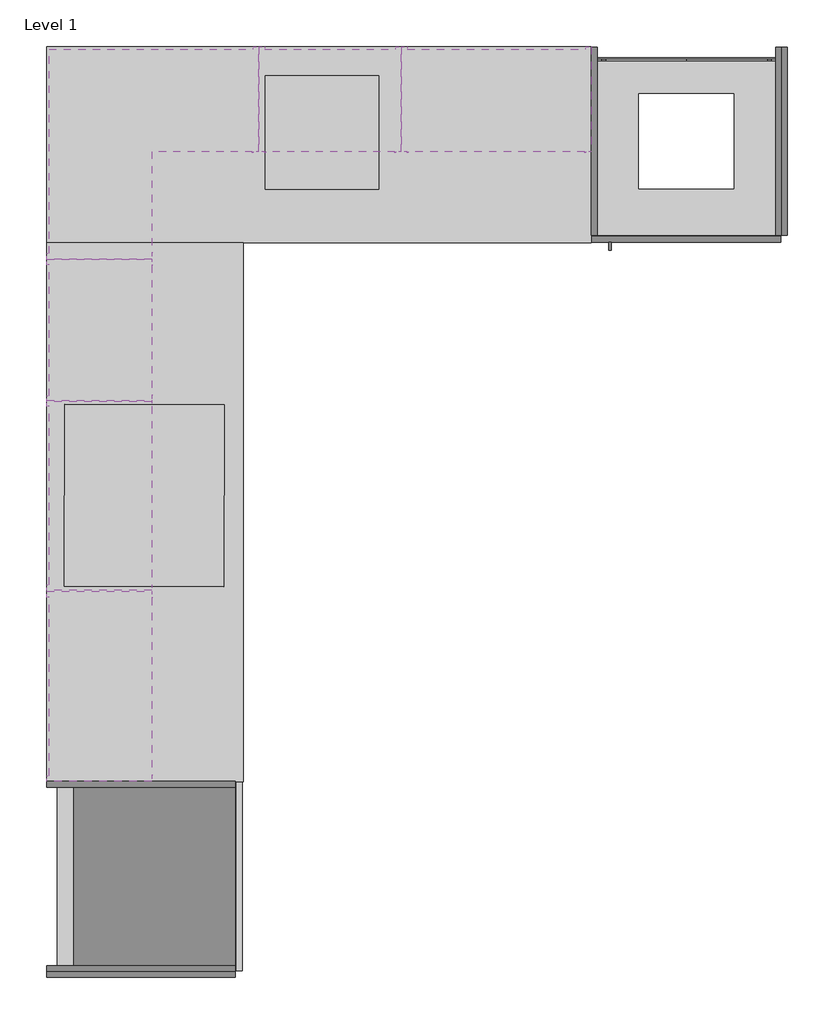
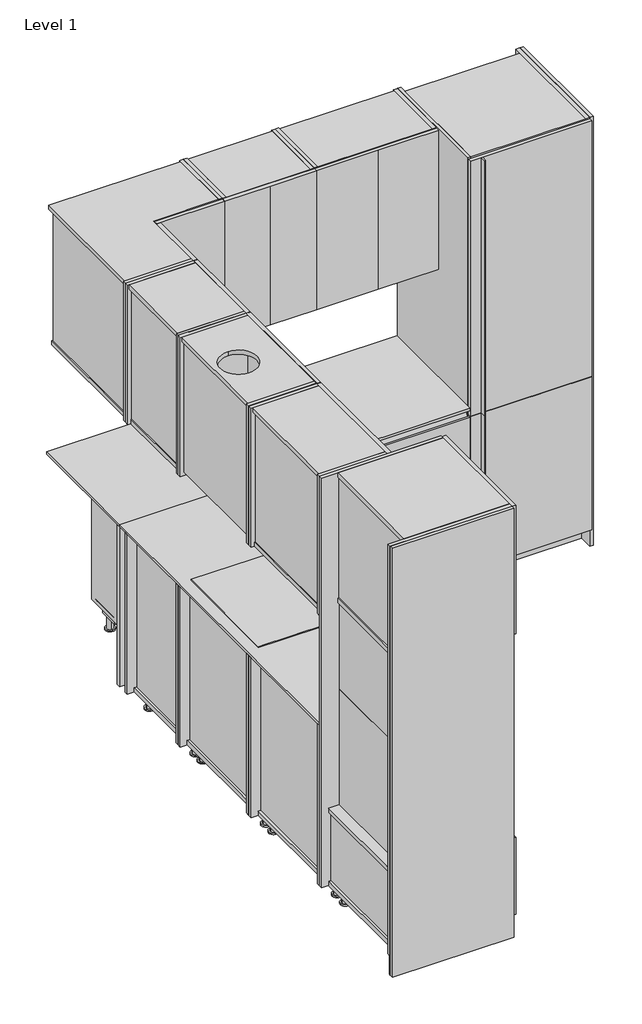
# One storey, incomplete: 18 furniture elements.
"""IFC4 building model written with IfcOpenShell, lengths in millimetres."""

from ifc_helpers import new_model, si_unit, frame, origin, place, context, project, spatial, polyline, outline, extrude, transform, mapped, element, save
from components import furniture_64351078, furniture_f227b24d, furniture_563479a7, furniture_3aacc366, base_corner_unit_1120_x_595_x_828_48937a91, base_unit_450_x_595_x_828_44056503, base_unit_600_x_595_x_828_324a6826, base_unit_with_drawers_600_x_595_x_828_efac2a1d, cooker_hood_600_x_331_x_722_96242f5e, fridge_600_x_595_x_2123_014d46ee, oven_and_microwave_600_x_595_x_2123_aba355bb, wall_corner_unit_670_x_331_x_722_3f49a759, wall_unit_1_leaf_450_x_331_x_722_4ee17443, wall_unit_1_leaf_450_x_331_x_722_3be3e329, wall_unit_1_leaf_600_x_331_x_722_c22d5c6f, wall_unit_1_leaf_600_x_331_x_722_7ddda7a9

model = new_model("IFC4")

# Units and contexts
model_context = context("Model", 3, world=origin())
ifc_project = project(units=[si_unit("LENGTHUNIT", "METRE", prefix="MILLI")], contexts=[model_context])

# Site, building, storey
site = spatial("IfcSite", under=ifc_project)
building = spatial("IfcBuilding", under=site)
storey = spatial("IfcBuildingStorey", under=building, Name="Level 1", Elevation=0.0)

# Furniture
placement = place(None, origin())
element("IfcFurniture", 1, ObjectType="Furniture_Other-Furniture_Molteni&C_Prime_Cooker-Top : Cooker Top - th 12 mm - Ceramic - Inalco Silk Gris Natural", at=placement, inside=storey, context=model_context, shape_type="SweptSolid", body=[
    extrude(outline(polyline([(-2408.3965862, 5876.5927838), (-2408.3965862, 6496.5927838), (-688.3965862, 6496.5927838), (-688.3965862, 5876.5927838), (-2408.3965862, 5876.5927838)]), holes=[polyline([(-1718.2811554, 6046.3592363), (-1360.1411554, 6046.3592363), (-1360.1411554, 6404.4992363), (-1718.2811554, 6404.4992363), (-1718.2811554, 6046.3592363)])]), frame((0.0, 0.0, 928.0), z_axis=(0.0, 0.0, 1.0), x_axis=(1.0, 0.0, 0.0)), (0.0, 0.0, 1.0), 12.0),
])
furniture_shape = furniture_64351078(model_context)
element("IfcFurniture", 2, ObjectType="Furniture_Other-Furniture_Molteni&C_Prime_Cooker-Top : Cooker Top - th 12 mm - Ceramic - Inalco Silk Gris Natural", at=placement, inside=storey, context=model_context, shape_type="MappedRepresentation", body=[
    mapped(furniture_shape, transform((-2098.3965862, 5025.0927838, 928.0), x_axis=(0.0, 1.0, 0.0), y_axis=(-1.0, 0.0, 0.0), z_axis=(0.0, 0.0, 1.0))),
])
furniture_2_shape = furniture_f227b24d(model_context)
element("IfcFurniture", 3, ObjectType="Furniture_Other-Furniture_Molteni&C_Prime_Panels : Furniture_Other-Furniture_Molteni&C_Prime_Panels", at=placement, inside=storey, context=model_context, shape_type="MappedRepresentation", body=[
    mapped(furniture_2_shape, transform((-2110.8965862, 3575.0927838, 1111.5), x_axis=(-1.0, 0.0, 0.0), y_axis=(0.0, 0.0, -1.0), z_axis=(0.0, -1.0, 0.0))),
])
element("IfcFurniture", 4, ObjectType="Furniture_Other-Furniture_Molteni&C_Prime_Panels : Furniture_Other-Furniture_Molteni&C_Prime_Panels", at=placement, inside=storey, context=model_context, shape_type="MappedRepresentation", body=[
    mapped(furniture_2_shape, transform((-88.3965862, 6197.5927838, 1111.5), x_axis=(0.0, -1.0, 0.0), y_axis=(0.0, 0.0, -1.0), z_axis=(1.0, 0.0, 0.0))),
])
furniture_3_shape = furniture_563479a7(model_context)
element("IfcFurniture", 5, ObjectType="Furniture_Other-Furniture_Molteni&C_Prime_Washdishes-1-leaf : Washdishes 1 leaf - 600 x 828", at=placement, inside=storey, context=model_context, shape_type="MappedRepresentation", body=[
    mapped(furniture_3_shape, transform((-988.3965862, 6196.0927838, 0.0), x_axis=(1.0, 0.0, 0.0), y_axis=(0.0, 1.0, 0.0), z_axis=(0.0, 0.0, 1.0))),
])
furniture_4_shape = furniture_3aacc366(model_context)
element("IfcFurniture", 6, ObjectType="Cookertop : Cookertop", at=placement, inside=storey, context=model_context, shape_type="MappedRepresentation", body=[
    mapped(furniture_4_shape, transform((-2100.3965862, 5078.5927838, 940.0), x_axis=(0.0034211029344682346, 0.999994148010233, 0.0), y_axis=(-0.999994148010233, 0.0034211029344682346, 0.0), z_axis=(0.0, 0.0, 1.0))),
])
base_corner_unit_1120_x_595_x_828_shape = base_corner_unit_1120_x_595_x_828_48937a91(model_context)
element("IfcFurniture", 7, ObjectType="Furniture_Other-Furniture_Molteni&C_Prime_Base-Corner : Base Corner Unit - 1120 x 595 x 828", at=placement, inside=storey, context=model_context, shape_type="MappedRepresentation", body=[
    mapped(base_corner_unit_1120_x_595_x_828_shape, transform((-1737.8965862, 6196.0927838, 0.0), x_axis=(1.0, 0.0, 0.0), y_axis=(0.0, 1.0, 0.0), z_axis=(0.0, 0.0, 1.0))),
])
base_unit_450_x_595_x_828_shape = base_unit_450_x_595_x_828_44056503(model_context)
element("IfcFurniture", 8, ObjectType="Furniture_Other-Furniture_Molteni&C_Prime_Base : Base Unit - 450 x 595 x 828", at=placement, inside=storey, context=model_context, shape_type="MappedRepresentation", body=[
    mapped(base_unit_450_x_595_x_828_shape, transform((-2110.8965862, 5603.5927838, 0.0), x_axis=(0.0, 1.0, 0.0), y_axis=(-1.0, 0.0, 0.0), z_axis=(0.0, 0.0, 1.0))),
])
base_unit_600_x_595_x_828_shape = base_unit_600_x_595_x_828_324a6826(model_context)
element("IfcFurniture", 9, ObjectType="Furniture_Other-Furniture_Molteni&C_Prime_Base : Base Unit - 600 x 595 x 828", at=placement, inside=storey, context=model_context, shape_type="MappedRepresentation", body=[
    mapped(base_unit_600_x_595_x_828_shape, transform((-2110.8965862, 4475.0927838, 0.0), x_axis=(0.0, -1.0, 0.0), y_axis=(1.0, 0.0, 0.0), z_axis=(0.0, 0.0, 1.0))),
])
base_unit_with_drawers_600_x_595_x_828_shape = base_unit_with_drawers_600_x_595_x_828_efac2a1d(model_context)
element("IfcFurniture", 10, ObjectType="Furniture_Other-Furniture_Molteni&C_Prime_Base-With-Drawers : Base Unit With Drawers - 600 x 595 x 828", at=placement, inside=storey, context=model_context, shape_type="MappedRepresentation", body=[
    mapped(base_unit_with_drawers_600_x_595_x_828_shape, transform((-2110.8965862, 5078.5927838, 0.0), x_axis=(0.0, 1.0, 0.0), y_axis=(-1.0, 0.0, 0.0), z_axis=(0.0, 0.0, 1.0))),
])
cooker_hood_600_x_331_x_722_shape = cooker_hood_600_x_331_x_722_96242f5e(model_context)
element("IfcFurniture", 11, ObjectType="Furniture_Other-Furniture_Molteni&C_Prime_Wall-Unit-Cooker-Hood : Cooker Hood - 600 x 331 x 722", at=placement, inside=storey, context=model_context, shape_type="MappedRepresentation", body=[
    mapped(cooker_hood_600_x_331_x_722_shape, transform((-2242.8966315, 5078.5927838, 1500.0), x_axis=(0.0, -1.0, 0.0), y_axis=(1.0, 0.0, 0.0), z_axis=(0.0, 0.0, 1.0))),
])
fridge_600_x_595_x_2123_shape = fridge_600_x_595_x_2123_014d46ee(model_context)
element("IfcFurniture", 12, ObjectType="Furniture_Other-Furniture_Molteni&C_Prime_Fridge : Fridge - 600 x 595 x 2123", at=placement, inside=storey, context=model_context, shape_type="MappedRepresentation", body=[
    mapped(fridge_600_x_595_x_2123_shape, transform((-388.3965862, 6197.5927838, 0.0), x_axis=(-1.0, 0.0, 0.0), y_axis=(0.0, -1.0, 0.0), z_axis=(0.0, 0.0, 1.0))),
])
oven_and_microwave_600_x_595_x_2123_shape = oven_and_microwave_600_x_595_x_2123_aba355bb(model_context)
element("IfcFurniture", 13, ObjectType="Furniture_Other-Furniture_Molteni&C_Prime_Oven-Microwave-Push-Pull : Oven and Microwave - 600 x 595 x 2123", at=placement, inside=storey, context=model_context, shape_type="MappedRepresentation", body=[
    mapped(oven_and_microwave_600_x_595_x_2123_shape, transform((-2128.8965862, 3875.0927838, 0.0), x_axis=(0.0, 1.0, 0.0), y_axis=(-1.0, 0.0, 0.0), z_axis=(0.0, 0.0, 1.0))),
])
wall_corner_unit_670_x_331_x_722_shape = wall_corner_unit_670_x_331_x_722_3f49a759(model_context)
element("IfcFurniture", 14, ObjectType="Furniture_Other-Furniture_Molteni&C_Prime_Wall-Unit-SP-Corner_331mm : Wall Corner Unit - 670 x 331 x 722", at=placement, inside=storey, context=model_context, shape_type="MappedRepresentation", body=[
    mapped(wall_corner_unit_670_x_331_x_722_shape, transform((-2073.3965862, 6329.5927838, 1500.0), x_axis=(1.0, 0.0, 0.0), y_axis=(0.0, 1.0, 0.0), z_axis=(0.0, 0.0, 1.0))),
])
wall_unit_1_leaf_450_x_331_x_722_shape = wall_unit_1_leaf_450_x_331_x_722_4ee17443(model_context)
element("IfcFurniture", 15, ObjectType="Furniture_Other-Furniture_Molteni&C_Prime_Wall-Unit-SP-1-Leaf_331mm : Wall Unit 1 Leaf - 450 x 331 x 722", at=placement, inside=storey, context=model_context, shape_type="MappedRepresentation", body=[
    mapped(wall_unit_1_leaf_450_x_331_x_722_shape, transform((-1513.3965862, 6329.5927838, 1500.0), x_axis=(1.0, 0.0, 0.0), y_axis=(0.0, 1.0, 0.0), z_axis=(0.0, 0.0, 1.0))),
])
wall_unit_1_leaf_450_x_331_x_722_2_shape = wall_unit_1_leaf_450_x_331_x_722_3be3e329(model_context)
element("IfcFurniture", 16, ObjectType="Furniture_Other-Furniture_Molteni&C_Prime_Wall-Unit-SP-1-Leaf_331mm : Wall Unit 1 Leaf - 450 x 331 x 722", at=placement, inside=storey, context=model_context, shape_type="MappedRepresentation", body=[
    mapped(wall_unit_1_leaf_450_x_331_x_722_2_shape, transform((-2242.8965862, 5600.0927838, 1500.0), x_axis=(0.0, -1.0, 0.0), y_axis=(1.0, 0.0, 0.0), z_axis=(0.0, 0.0, 1.0))),
])
wall_unit_1_leaf_600_x_331_x_722_shape = wall_unit_1_leaf_600_x_331_x_722_c22d5c6f(model_context)
element("IfcFurniture", 17, ObjectType="Furniture_Other-Furniture_Molteni&C_Prime_Wall-Unit-SP-1-Leaf_331mm : Wall Unit 1 Leaf - 600 x 331 x 722", at=placement, inside=storey, context=model_context, shape_type="MappedRepresentation", body=[
    mapped(wall_unit_1_leaf_600_x_331_x_722_shape, transform((-988.3965862, 6329.5927838, 1500.0), x_axis=(-1.0, 0.0, 0.0), y_axis=(0.0, -1.0, 0.0), z_axis=(0.0, 0.0, 1.0))),
])
wall_unit_1_leaf_600_x_331_x_722_2_shape = wall_unit_1_leaf_600_x_331_x_722_7ddda7a9(model_context)
element("IfcFurniture", 18, ObjectType="Furniture_Other-Furniture_Molteni&C_Prime_Wall-Unit-SP-1-Leaf_331mm : Wall Unit 1 Leaf - 600 x 331 x 722", at=placement, inside=storey, context=model_context, shape_type="MappedRepresentation", body=[
    mapped(wall_unit_1_leaf_600_x_331_x_722_2_shape, transform((-2242.8965862, 4475.0927838, 1500.0), x_axis=(0.0, 1.0, 0.0), y_axis=(-1.0, 0.0, 0.0), z_axis=(0.0, 0.0, 1.0))),
])

save(model, "model.ifc")
